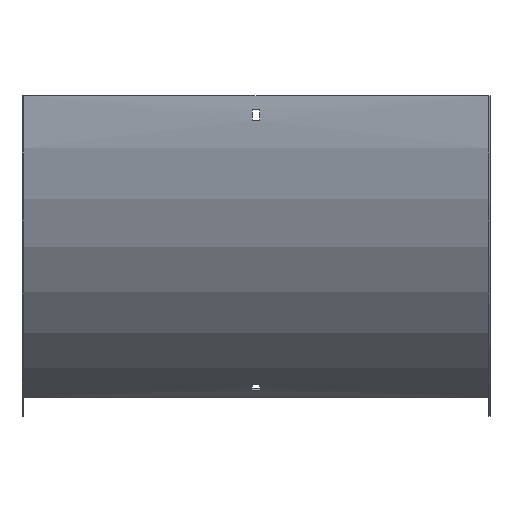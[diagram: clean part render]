
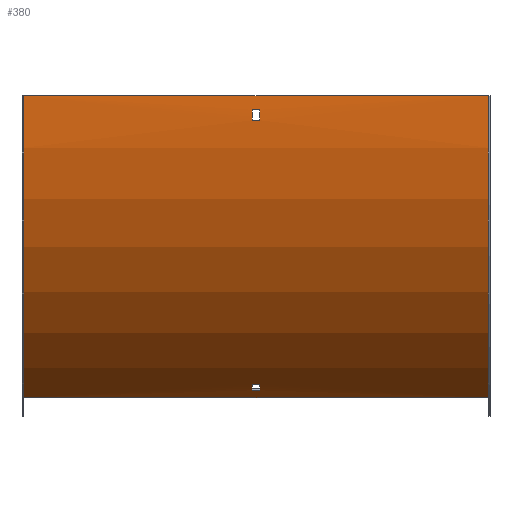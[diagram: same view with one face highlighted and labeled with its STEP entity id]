
A CAD part, front view. The second image highlights one B-rep face of the part: STEP entity #380.
In plain terms, the highlighted cylindrical face has radius 300 mm (diameter 600 mm), a partial arc.
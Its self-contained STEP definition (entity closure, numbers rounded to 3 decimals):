
#20 = EDGE_LOOP ( 'NONE', ( #459, #484, #110, #349 ) ) ;
#22 = VERTEX_POINT ( 'NONE', #120 ) ;
#25 = LINE ( 'NONE', #84, #352 ) ;
#26 = CARTESIAN_POINT ( 'NONE',  ( -200., -1.5, 0. ) ) ;
#30 = AXIS2_PLACEMENT_3D ( 'NONE', #127, #495, #442 ) ;
#47 = ORIENTED_EDGE ( 'NONE', *, *, #152, .F. ) ;
#58 = LINE ( 'NONE', #444, #452 ) ;
#70 = FACE_BOUND ( 'NONE', #20, .T. ) ;
#84 = CARTESIAN_POINT ( 'NONE',  ( 201.5, -1.26, -12. ) ) ;
#87 = DIRECTION ( 'NONE',  ( -1., 0., 0. ) ) ;
#90 = CARTESIAN_POINT ( 'NONE',  ( -3.25, 298.5, 0. ) ) ;
#91 = DIRECTION ( 'NONE',  ( -1., 0., 0. ) ) ;
#93 = DIRECTION ( 'NONE',  ( 0., 0., 1. ) ) ;
#97 = CIRCLE ( 'NONE', #149, 300. ) ;
#110 = ORIENTED_EDGE ( 'NONE', *, *, #125, .F. ) ;
#117 = ORIENTED_EDGE ( 'NONE', *, *, #581, .T. ) ;
#120 = CARTESIAN_POINT ( 'NONE',  ( 3.25, 130.681, -248.67 ) ) ;
#125 = EDGE_CURVE ( 'NONE', #479, #592, #431, .T. ) ;
#127 = CARTESIAN_POINT ( 'NONE',  ( 3.25, 298.5, 0. ) ) ;
#139 = AXIS2_PLACEMENT_3D ( 'NONE', #90, #593, #551 ) ;
#140 = CARTESIAN_POINT ( 'NONE',  ( 200., 148.5, -259.808 ) ) ;
#143 = DIRECTION ( 'NONE',  ( -1., 0., 0. ) ) ;
#148 = AXIS2_PLACEMENT_3D ( 'NONE', #185, #558, #272 ) ;
#149 = AXIS2_PLACEMENT_3D ( 'NONE', #529, #565, #296 ) ;
#152 = EDGE_CURVE ( 'NONE', #412, #384, #544, .T. ) ;
#154 = VECTOR ( 'NONE', #445, 1000. ) ;
#156 = DIRECTION ( 'NONE',  ( 1., 0., 0. ) ) ;
#160 = EDGE_CURVE ( 'NONE', #520, #205, #355, .T. ) ;
#171 = CIRCLE ( 'NONE', #235, 300. ) ;
#185 = CARTESIAN_POINT ( 'NONE',  ( 200., 298.5, 0. ) ) ;
#192 = CARTESIAN_POINT ( 'NONE',  ( 3.25, 298.5, 0. ) ) ;
#196 = CARTESIAN_POINT ( 'NONE',  ( 3.25, 138.228, -253.6 ) ) ;
#204 = VECTOR ( 'NONE', #436, 1000. ) ;
#205 = VERTEX_POINT ( 'NONE', #564 ) ;
#208 = VECTOR ( 'NONE', #87, 1000. ) ;
#212 = LINE ( 'NONE', #450, #154 ) ;
#222 = EDGE_LOOP ( 'NONE', ( #607, #117, #575, #557 ) ) ;
#224 = DIRECTION ( 'NONE',  ( 0., 0., 1. ) ) ;
#235 = AXIS2_PLACEMENT_3D ( 'NONE', #192, #156, #224 ) ;
#239 = VERTEX_POINT ( 'NONE', #196 ) ;
#255 = CARTESIAN_POINT ( 'NONE',  ( 201.5, 298.5, 0. ) ) ;
#260 = CARTESIAN_POINT ( 'NONE',  ( -3.25, -1.26, -12. ) ) ;
#271 = CARTESIAN_POINT ( 'NONE',  ( -3.25, 138.228, -253.6 ) ) ;
#272 = DIRECTION ( 'NONE',  ( 0., 0., 1. ) ) ;
#292 = EDGE_CURVE ( 'NONE', #22, #239, #171, .T. ) ;
#293 = VERTEX_POINT ( 'NONE', #394 ) ;
#296 = DIRECTION ( 'NONE',  ( 0., 0., 1. ) ) ;
#297 = VERTEX_POINT ( 'NONE', #493 ) ;
#303 = EDGE_CURVE ( 'NONE', #293, #22, #391, .T. ) ;
#309 = FACE_OUTER_BOUND ( 'NONE', #515, .T. ) ;
#313 = CYLINDRICAL_SURFACE ( 'NONE', #497, 300. ) ;
#322 = EDGE_CURVE ( 'NONE', #239, #542, #212, .T. ) ;
#344 = CARTESIAN_POINT ( 'NONE',  ( 201.5, 130.681, -248.67 ) ) ;
#349 = ORIENTED_EDGE ( 'NONE', *, *, #492, .F. ) ;
#352 = VECTOR ( 'NONE', #449, 1000. ) ;
#355 = CIRCLE ( 'NONE', #148, 300. ) ;
#358 = VERTEX_POINT ( 'NONE', #260 ) ;
#361 = DIRECTION ( 'NONE',  ( 1., 0., 0. ) ) ;
#380 = ADVANCED_FACE ( 'NONE', ( #70, #309, #498 ), #313, .T. ) ;
#384 = VERTEX_POINT ( 'NONE', #26 ) ;
#386 = CARTESIAN_POINT ( 'NONE',  ( 200., 148.5, -259.808 ) ) ;
#389 = AXIS2_PLACEMENT_3D ( 'NONE', #411, #91, #93 ) ;
#391 = LINE ( 'NONE', #344, #204 ) ;
#394 = CARTESIAN_POINT ( 'NONE',  ( -3.25, 130.681, -248.67 ) ) ;
#411 = CARTESIAN_POINT ( 'NONE',  ( -200., 298.5, 0. ) ) ;
#412 = VERTEX_POINT ( 'NONE', #482 ) ;
#421 = CARTESIAN_POINT ( 'NONE',  ( 3.25, -0.764, -21. ) ) ;
#431 = CIRCLE ( 'NONE', #30, 300. ) ;
#434 = DIRECTION ( 'NONE',  ( -1., 0., 0. ) ) ;
#436 = DIRECTION ( 'NONE',  ( 1., 0., 0. ) ) ;
#439 = CARTESIAN_POINT ( 'NONE',  ( 3.25, -1.26, -12. ) ) ;
#442 = DIRECTION ( 'NONE',  ( 0., 0., -1. ) ) ;
#444 = CARTESIAN_POINT ( 'NONE',  ( 200., -1.5, 0. ) ) ;
#445 = DIRECTION ( 'NONE',  ( -1., 0., 0. ) ) ;
#449 = DIRECTION ( 'NONE',  ( -1., 0., 0. ) ) ;
#450 = CARTESIAN_POINT ( 'NONE',  ( 201.5, 138.228, -253.6 ) ) ;
#451 = EDGE_CURVE ( 'NONE', #358, #297, #97, .T. ) ;
#452 = VECTOR ( 'NONE', #143, 1000. ) ;
#459 = ORIENTED_EDGE ( 'NONE', *, *, #451, .F. ) ;
#471 = ORIENTED_EDGE ( 'NONE', *, *, #598, .F. ) ;
#479 = VERTEX_POINT ( 'NONE', #421 ) ;
#482 = CARTESIAN_POINT ( 'NONE',  ( -200., 148.5, -259.808 ) ) ;
#484 = ORIENTED_EDGE ( 'NONE', *, *, #560, .F. ) ;
#492 = EDGE_CURVE ( 'NONE', #297, #479, #502, .T. ) ;
#493 = CARTESIAN_POINT ( 'NONE',  ( -3.25, -0.764, -21. ) ) ;
#495 = DIRECTION ( 'NONE',  ( -1., 0., 0. ) ) ;
#497 = AXIS2_PLACEMENT_3D ( 'NONE', #255, #434, #501 ) ;
#498 = FACE_BOUND ( 'NONE', #222, .T. ) ;
#501 = DIRECTION ( 'NONE',  ( 0., 0., 1. ) ) ;
#502 = LINE ( 'NONE', #596, #512 ) ;
#505 = LINE ( 'NONE', #140, #208 ) ;
#506 = CIRCLE ( 'NONE', #139, 300. ) ;
#511 = ORIENTED_EDGE ( 'NONE', *, *, #539, .T. ) ;
#512 = VECTOR ( 'NONE', #361, 1000. ) ;
#515 = EDGE_LOOP ( 'NONE', ( #47, #471, #533, #511 ) ) ;
#520 = VERTEX_POINT ( 'NONE', #386 ) ;
#529 = CARTESIAN_POINT ( 'NONE',  ( -3.25, 298.5, 0. ) ) ;
#533 = ORIENTED_EDGE ( 'NONE', *, *, #160, .T. ) ;
#539 = EDGE_CURVE ( 'NONE', #205, #384, #58, .T. ) ;
#542 = VERTEX_POINT ( 'NONE', #271 ) ;
#544 = CIRCLE ( 'NONE', #389, 300. ) ;
#551 = DIRECTION ( 'NONE',  ( 0., 1., 0. ) ) ;
#557 = ORIENTED_EDGE ( 'NONE', *, *, #292, .T. ) ;
#558 = DIRECTION ( 'NONE',  ( -1., 0., 0. ) ) ;
#560 = EDGE_CURVE ( 'NONE', #592, #358, #25, .T. ) ;
#564 = CARTESIAN_POINT ( 'NONE',  ( 200., -1.5, 0. ) ) ;
#565 = DIRECTION ( 'NONE',  ( 1., 0., 0. ) ) ;
#575 = ORIENTED_EDGE ( 'NONE', *, *, #303, .T. ) ;
#581 = EDGE_CURVE ( 'NONE', #542, #293, #506, .T. ) ;
#592 = VERTEX_POINT ( 'NONE', #439 ) ;
#593 = DIRECTION ( 'NONE',  ( -1., 0., 0. ) ) ;
#596 = CARTESIAN_POINT ( 'NONE',  ( 201.5, -0.764, -21. ) ) ;
#598 = EDGE_CURVE ( 'NONE', #520, #412, #505, .T. ) ;
#607 = ORIENTED_EDGE ( 'NONE', *, *, #322, .T. ) ;
